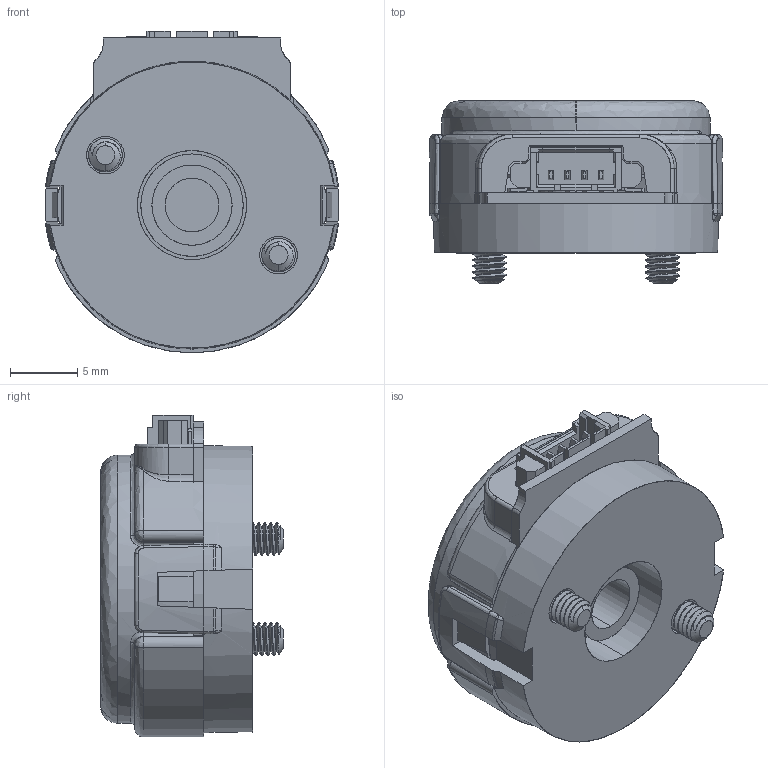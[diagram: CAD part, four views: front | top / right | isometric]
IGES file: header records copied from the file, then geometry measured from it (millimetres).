
Start section: SolidWorks IGES file using analytic representation for surfaces
Global section: file name: C:\Users\AlessandroC\Desktop\3-D_SPEH_4mmHub.IGS; native system: SolidWorks 2012; preprocessor: SolidWorks 2012; author: AlessandroC; date: 160203.081159; units: inch
Bounding box: 21.88 x 13.6 x 23.95 mm (x, y, z)
Surface area: 4227 mm2 (no closed solid volume)
Topology: 0 solids, 0 shells, 621 faces, 6222 edges, 6209 vertices
Faces by surface type: bspline 426, revolution 195
